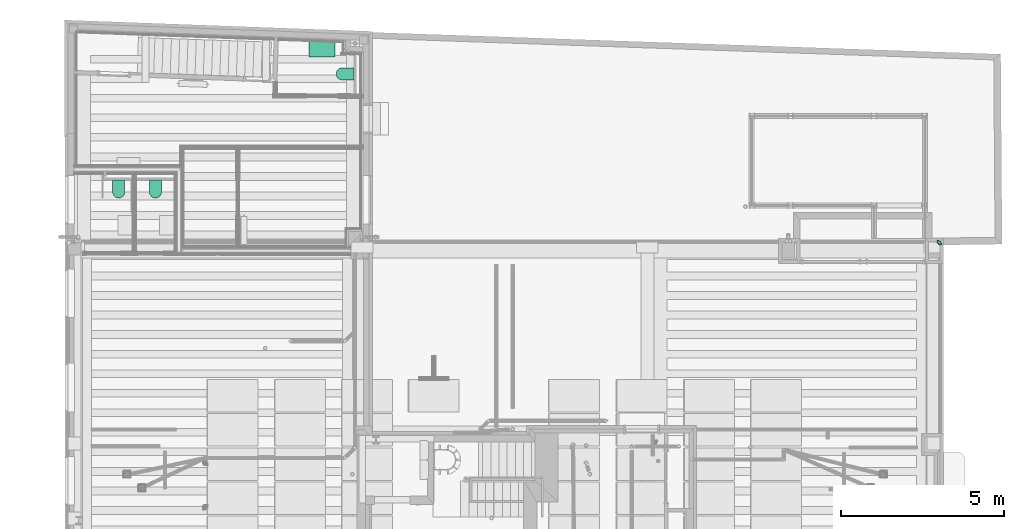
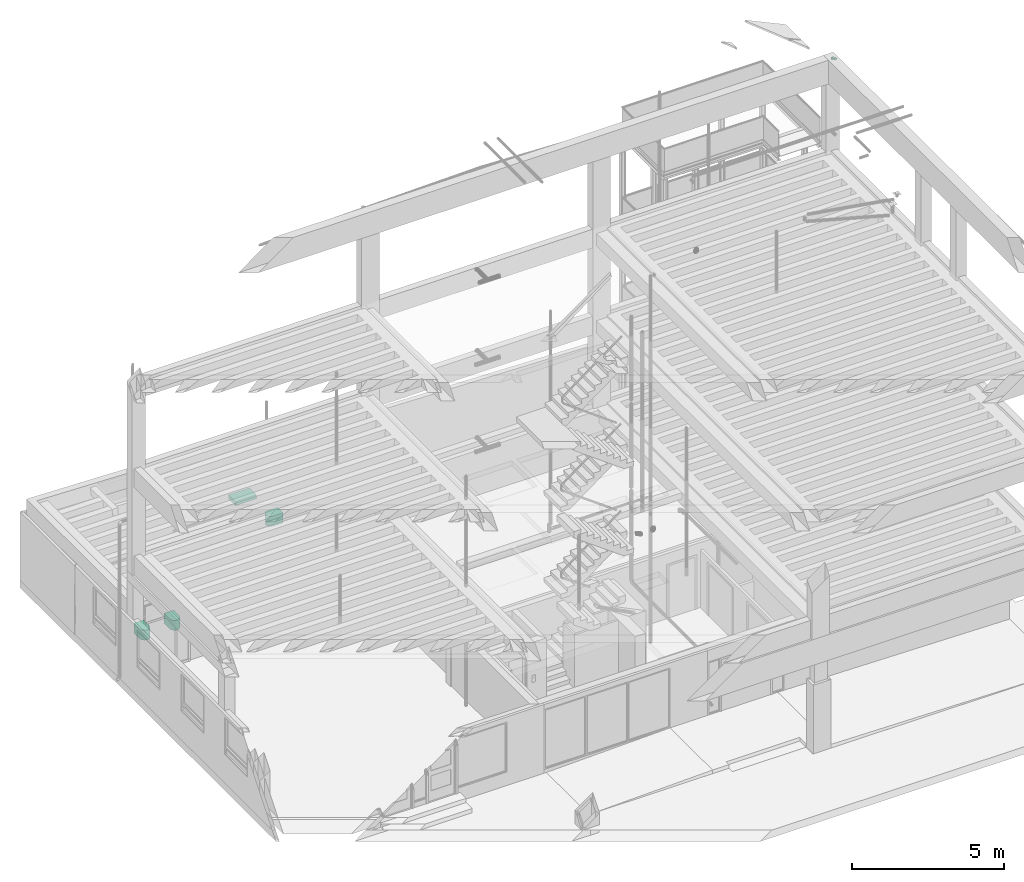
# One storey, part 103 of 108: 4 flow terminals, 1 flow fitting.
"""IFC2X3 building model written with IfcOpenShell, lengths in metres."""

from ifc_helpers import new_model, entity, si_unit, converted_unit, derived_unit, money_unit, direction, frame, origin_with_axes, place, context, subcontext, project, spatial, open_shell, faceted_brep, surface_model, material, type_object, element, save


model = new_model("IFC2X3")

# Units and contexts
model_context = context("Model", 3, precision=1e-05, world=origin_with_axes(), true_north=direction((0.0, 1.0)))
body_context = subcontext(model_context, "Body", "Model", "MODEL_VIEW", scale=1.0)
ifc_project = project(units=[si_unit("LENGTHUNIT", "METRE"), si_unit("AREAUNIT", "SQUARE_METRE"), si_unit("VOLUMEUNIT", "CUBIC_METRE"), si_unit("ABSORBEDDOSEUNIT", "GRAY"), si_unit("AMOUNTOFSUBSTANCEUNIT", "MOLE"), si_unit("DOSEEQUIVALENTUNIT", "SIEVERT"), si_unit("ELECTRICCAPACITANCEUNIT", "FARAD"), si_unit("ELECTRICCHARGEUNIT", "COULOMB"), si_unit("ELECTRICCONDUCTANCEUNIT", "SIEMENS"), si_unit("ELECTRICCURRENTUNIT", "AMPERE"), si_unit("ELECTRICRESISTANCEUNIT", "OHM"), si_unit("ELECTRICVOLTAGEUNIT", "VOLT"), si_unit("ENERGYUNIT", "JOULE"), si_unit("FORCEUNIT", "NEWTON"), si_unit("FREQUENCYUNIT", "HERTZ"), si_unit("ILLUMINANCEUNIT", "LUX"), si_unit("INDUCTANCEUNIT", "HENRY"), si_unit("LUMINOUSFLUXUNIT", "LUMEN"), si_unit("LUMINOUSINTENSITYUNIT", "CANDELA"), si_unit("MAGNETICFLUXDENSITYUNIT", "TESLA"), si_unit("MAGNETICFLUXUNIT", "WEBER"), si_unit("MASSUNIT", "GRAM"), converted_unit("PLANEANGLEUNIT", "degree", entity("IfcReal", 0.0174532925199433), si_unit("PLANEANGLEUNIT", "RADIAN"), dimensions=[0, 0, 0, 0, 0, 0, 0]), si_unit("POWERUNIT", "WATT"), si_unit("PRESSUREUNIT", "PASCAL"), si_unit("RADIOACTIVITYUNIT", "BECQUEREL"), si_unit("SOLIDANGLEUNIT", "STERADIAN"), si_unit("THERMODYNAMICTEMPERATUREUNIT", "KELVIN"), si_unit("TIMEUNIT", "SECOND"), derived_unit("ACCELERATIONUNIT", [(si_unit("LENGTHUNIT", "METRE"), 1), (si_unit("TIMEUNIT", "SECOND"), -2)]), derived_unit("ANGULARVELOCITYUNIT", [(converted_unit("PLANEANGLEUNIT", "degree", entity("IfcReal", 0.0174532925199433), si_unit("PLANEANGLEUNIT", "RADIAN"), dimensions=[0, 0, 0, 0, 0, 0, 0]), 1), (si_unit("TIMEUNIT", "SECOND"), -1)]), derived_unit("CURVATUREUNIT", [(converted_unit("PLANEANGLEUNIT", "degree", entity("IfcReal", 0.0174532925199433), si_unit("PLANEANGLEUNIT", "RADIAN"), dimensions=[0, 0, 0, 0, 0, 0, 0]), 1), (si_unit("LENGTHUNIT", "METRE"), -1)]), derived_unit("DYNAMICVISCOSITYUNIT", [(si_unit("PRESSUREUNIT", "PASCAL"), 1), (si_unit("TIMEUNIT", "SECOND"), 1)]), derived_unit("HEATFLUXDENSITYUNIT", [(si_unit("POWERUNIT", "WATT"), 1), (si_unit("LENGTHUNIT", "METRE"), -2)]), derived_unit("HEATINGVALUEUNIT", [(si_unit("ENERGYUNIT", "JOULE"), 1), (si_unit("MASSUNIT", "GRAM"), -1)]), derived_unit("INTEGERCOUNTRATEUNIT", [(si_unit("TIMEUNIT", "SECOND"), -1)]), derived_unit("IONCONCENTRATIONUNIT", [(si_unit("MASSUNIT", "GRAM"), 1), (si_unit("VOLUMEUNIT", "CUBIC_METRE"), -1)]), derived_unit("ISOTHERMALMOISTURECAPACITYUNIT", [(si_unit("VOLUMEUNIT", "CUBIC_METRE"), 1), (si_unit("MASSUNIT", "GRAM"), -1)]), derived_unit("KINEMATICVISCOSITYUNIT", [(si_unit("AREAUNIT", "SQUARE_METRE"), 1), (si_unit("TIMEUNIT", "SECOND"), -1)]), derived_unit("LINEARFORCEUNIT", [(si_unit("FORCEUNIT", "NEWTON"), 1), (si_unit("LENGTHUNIT", "METRE"), -1)]), derived_unit("LINEARMOMENTUNIT", [(si_unit("FORCEUNIT", "NEWTON"), 1), (si_unit("LENGTHUNIT", "METRE"), -1)]), derived_unit("LINEARSTIFFNESSUNIT", [(si_unit("FORCEUNIT", "NEWTON"), 1), (si_unit("LENGTHUNIT", "METRE"), -1)]), derived_unit("LINEARVELOCITYUNIT", [(si_unit("LENGTHUNIT", "METRE"), 1), (si_unit("TIMEUNIT", "SECOND"), -1)]), derived_unit("LUMINOUSINTENSITYDISTRIBUTIONUNIT", [(si_unit("LUMINOUSINTENSITYUNIT", "CANDELA"), 1), (si_unit("LUMINOUSFLUXUNIT", "LUMEN"), -1)]), derived_unit("MASSDENSITYUNIT", [(si_unit("MASSUNIT", "GRAM"), 1), (si_unit("VOLUMEUNIT", "CUBIC_METRE"), -1)]), derived_unit("MASSFLOWRATEUNIT", [(si_unit("MASSUNIT", "GRAM"), 1), (si_unit("TIMEUNIT", "SECOND"), -1)]), derived_unit("MASSPERLENGTHUNIT", [(si_unit("MASSUNIT", "GRAM"), 1), (si_unit("LENGTHUNIT", "METRE"), -1)]), derived_unit("MODULUSOFELASTICITYUNIT", [(si_unit("FORCEUNIT", "NEWTON"), 1), (si_unit("AREAUNIT", "SQUARE_METRE"), -1)]), derived_unit("MODULUSOFLINEARSUBGRADEREACTIONUNIT", [(si_unit("FORCEUNIT", "NEWTON"), 1), (si_unit("LENGTHUNIT", "METRE"), -2)]), derived_unit("MODULUSOFROTATIONALSUBGRADEREACTIONUNIT", [(si_unit("FORCEUNIT", "NEWTON"), 1), (si_unit("LENGTHUNIT", "METRE"), 1)]), derived_unit("MODULUSOFSUBGRADEREACTIONUNIT", [(si_unit("FORCEUNIT", "NEWTON"), 1), (si_unit("VOLUMEUNIT", "CUBIC_METRE"), -1)]), derived_unit("MOISTUREDIFFUSIVITYUNIT", [(si_unit("VOLUMEUNIT", "CUBIC_METRE"), 1), (si_unit("TIMEUNIT", "SECOND"), -1)]), derived_unit("MOLECULARWEIGHTUNIT", [(si_unit("MASSUNIT", "GRAM"), 1), (si_unit("AMOUNTOFSUBSTANCEUNIT", "MOLE"), -1)]), derived_unit("PLANARFORCEUNIT", [(si_unit("FORCEUNIT", "NEWTON"), 1), (si_unit("LENGTHUNIT", "METRE"), -2)]), derived_unit("ROTATIONALFREQUENCYUNIT", [(si_unit("TIMEUNIT", "SECOND"), -1)]), derived_unit("ROTATIONALMASSUNIT", [(si_unit("MASSUNIT", "GRAM"), 1), (si_unit("LENGTHUNIT", "METRE"), 2)]), derived_unit("ROTATIONALSTIFFNESSUNIT", [(si_unit("FORCEUNIT", "NEWTON"), 1), (si_unit("LENGTHUNIT", "METRE"), 1), (converted_unit("PLANEANGLEUNIT", "degree", entity("IfcReal", 0.0174532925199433), si_unit("PLANEANGLEUNIT", "RADIAN"), dimensions=[0, 0, 0, 0, 0, 0, 0]), -1)]), derived_unit("SECTIONAREAINTEGRALUNIT", [(si_unit("LENGTHUNIT", "METRE"), 5)]), derived_unit("SECTIONMODULUSUNIT", [(si_unit("LENGTHUNIT", "METRE"), 3)]), derived_unit("SHEARMODULUSUNIT", [(si_unit("FORCEUNIT", "NEWTON"), 1), (si_unit("AREAUNIT", "SQUARE_METRE"), -1)]), derived_unit("SOUNDPOWERUNIT", [(si_unit("ENERGYUNIT", "JOULE"), 1), (si_unit("TIMEUNIT", "SECOND"), -1)]), derived_unit("SPECIFICHEATCAPACITYUNIT", [(si_unit("FORCEUNIT", "NEWTON"), 1), (si_unit("MASSUNIT", "GRAM"), -1), (si_unit("THERMODYNAMICTEMPERATUREUNIT", "KELVIN"), -1)]), derived_unit("TEMPERATUREGRADIENTUNIT", [(si_unit("THERMODYNAMICTEMPERATUREUNIT", "KELVIN"), 1), (si_unit("LENGTHUNIT", "METRE"), -1)]), derived_unit("THERMALADMITTANCEUNIT", [(si_unit("POWERUNIT", "WATT"), 1), (si_unit("AREAUNIT", "SQUARE_METRE"), -1), (si_unit("THERMODYNAMICTEMPERATUREUNIT", "KELVIN"), -1)]), derived_unit("THERMALCONDUCTANCEUNIT", [(si_unit("POWERUNIT", "WATT"), 1), (si_unit("LENGTHUNIT", "METRE"), -1), (si_unit("THERMODYNAMICTEMPERATUREUNIT", "KELVIN"), -1)]), derived_unit("THERMALEXPANSIONCOEFFICIENTUNIT", [(si_unit("THERMODYNAMICTEMPERATUREUNIT", "KELVIN"), -1)]), derived_unit("THERMALRESISTANCEUNIT", [(si_unit("AREAUNIT", "SQUARE_METRE"), 1), (si_unit("POWERUNIT", "WATT"), -1)]), derived_unit("THERMALTRANSMITTANCEUNIT", [(si_unit("POWERUNIT", "WATT"), 1), (si_unit("AREAUNIT", "SQUARE_METRE"), -1), (si_unit("THERMODYNAMICTEMPERATUREUNIT", "KELVIN"), -1)]), derived_unit("TORQUEUNIT", [(si_unit("FORCEUNIT", "NEWTON"), 1), (si_unit("LENGTHUNIT", "METRE"), 1)]), derived_unit("VAPORPERMEABILITYUNIT", [(si_unit("MASSUNIT", "GRAM"), 1), (si_unit("TIMEUNIT", "SECOND"), -1)]), derived_unit("VOLUMETRICFLOWRATEUNIT", [(si_unit("VOLUMEUNIT", "CUBIC_METRE"), 1), (si_unit("TIMEUNIT", "SECOND"), -1)]), derived_unit("WARPINGCONSTANTUNIT", [(si_unit("LENGTHUNIT", "METRE"), 6)]), derived_unit("WARPINGMOMENTUNIT", [(si_unit("FORCEUNIT", "NEWTON"), 1), (si_unit("LENGTHUNIT", "METRE"), 2)]), money_unit("GBP")], contexts=[model_context])

# Site, building, storey
site_placement = place(None, origin_with_axes())
site = spatial("IfcSite", under=ifc_project, at=site_placement, Name="Site", CompositionType="ELEMENT")
building_placement = place(site_placement, origin_with_axes())
building = spatial("IfcBuilding", under=site, at=building_placement, Name="Building01", CompositionType="ELEMENT")
storey_placement = place(building_placement, origin_with_axes())
storey = spatial("IfcBuildingStorey", under=building, at=storey_placement, Name="GF", CompositionType="ELEMENT", Elevation=0.0)

# Flow fitting
ifc_material = material(Name="M_BSUK_ColdWater")
pipe_fitting_type = type_object("IfcPipeFittingType", Name="M-BmpElbow-DefaultElbow", PredefinedType="BEND")
flow_fitting_placement = place(storey_placement, frame((26.885, 14.70603, 15.487248), z_axis=(1.0, 0.0, 0.0), x_axis=(0.0, 1.0, 0.0)))
element("IfcFlowFitting", 1, at=flow_fitting_placement, inside=storey, type_object=pipe_fitting_type, material=ifc_material, Name="M-BmpElbow-DefaultElbow", ObjectType="M-BmpElbow-DefaultElbow", context=body_context, shape_type="SurfaceModel", body=[
    surface_model("IfcShellBasedSurfaceModel", [(0.008009, -0.01349, -0.048768), (0.0, -0.01349, -0.048146), (0.0, 0.0, -0.05), (0.007723, 0.0, -0.0506), (0.015826, -0.01349, -0.05062), (0.015261, 0.0, -0.052386), (0.023264, -0.01349, -0.053657), (0.022432, 0.0, -0.055314), (0.030143, -0.01349, -0.057807), (0.029065, 0.0, -0.059315), (0.036298, -0.01349, -0.062969), (0.035, 0.0, -0.064293), (0.041582, -0.01349, -0.06902), (0.040095, 0.0, -0.070127), (0.045868, -0.01349, -0.075814), (0.044228, 0.0, -0.076679), (0.049054, -0.01349, -0.083189), (0.0473, 0.0, -0.08379), (0.051061, -0.01349, -0.090968), (0.049236, 0.0, -0.091291), (0.051844, -0.01349, -0.098963), (0.04999, 0.0, -0.099), (0.008847, -0.025979, -0.043408), (0.0, -0.025979, -0.042721), (0.017482, -0.025979, -0.045454), (0.025697, -0.025979, -0.048809), (0.033296, -0.025979, -0.053392), (0.040095, -0.025979, -0.059095), (0.045932, -0.025979, -0.065779), (0.050667, -0.025979, -0.073284), (0.054185, -0.025979, -0.081431), (0.056403, -0.025979, -0.090023), (0.057268, -0.025979, -0.098855), (0.010175, -0.036542, -0.034918), (0.0, -0.036542, -0.034128), (0.020105, -0.036542, -0.037271), (0.029553, -0.036542, -0.041129), (0.038291, -0.036542, -0.0464), (0.046111, -0.036542, -0.052958), (0.052823, -0.036542, -0.060645), (0.058268, -0.036542, -0.069276), (0.062315, -0.036542, -0.078645), (0.064865, -0.036542, -0.088526), (0.065859, -0.036542, -0.098683), (0.011893, -0.044394, -0.023927), (0.0, -0.044394, -0.023003), (0.0235, -0.044394, -0.026677), (0.034544, -0.044394, -0.031187), (0.044758, -0.044394, -0.037348), (0.053898, -0.044394, -0.045013), (0.061744, -0.044394, -0.053998), (0.068109, -0.044394, -0.064087), (0.072838, -0.044394, -0.075038), (0.07582, -0.044394, -0.086588), (0.076981, -0.044394, -0.09846), (0.013875, -0.048954, -0.011251), (0.0, -0.048954, -0.010173), (0.027416, -0.048954, -0.014459), (0.0403, -0.048954, -0.01972), (0.052216, -0.048954, -0.026908), (0.062879, -0.048954, -0.035851), (0.072033, -0.048954, -0.046333), (0.079458, -0.048954, -0.058103), (0.084976, -0.048954, -0.070879), (0.088454, -0.048954, -0.084353), (0.089809, -0.048954, -0.098204), (0.015973, -0.049883, 0.002171), (0.0, -0.049883, 0.003412), (0.031562, -0.049883, -0.001522), (0.046394, -0.049883, -0.007579), (0.060113, -0.049883, -0.015854), (0.072389, -0.049883, -0.026149), (0.082927, -0.049883, -0.038216), (0.091475, -0.049883, -0.051767), (0.097827, -0.049883, -0.066475), (0.101831, -0.049883, -0.081987), (0.103391, -0.049883, -0.097932), (0.018032, -0.047113, 0.015343), (0.0, -0.047113, 0.016744), (0.035632, -0.047113, 0.011174), (0.052376, -0.047113, 0.004336), (0.067863, -0.047113, -0.005006), (0.081721, -0.047113, -0.016628), (0.093618, -0.047113, -0.030251), (0.103268, -0.047113, -0.045548), (0.110439, -0.047113, -0.062153), (0.114959, -0.047113, -0.079665), (0.116721, -0.047113, -0.097665), (0.0199, -0.040848, 0.027288), (0.0, -0.040848, 0.028834), (0.039322, -0.040848, 0.022687), (0.0578, -0.040848, 0.015141), (0.074891, -0.040848, 0.004831), (0.090184, -0.040848, -0.007994), (0.103313, -0.040848, -0.023028), (0.113962, -0.040848, -0.039909), (0.121876, -0.040848, -0.058233), (0.126865, -0.040848, -0.077559), (0.128808, -0.040848, -0.097424), (0.021437, -0.031554, 0.03712), (0.0, -0.031554, 0.038786), (0.042359, -0.031554, 0.032163), (0.062264, -0.031554, 0.024035), (0.080675, -0.031554, 0.012929), (0.09715, -0.031554, -0.000887), (0.111293, -0.031554, -0.017083), (0.122765, -0.031554, -0.035268), (0.13129, -0.031554, -0.055007), (0.136664, -0.031554, -0.075826), (0.138758, -0.031554, -0.097225), (0.022529, -0.01992, 0.04411), (0.0, -0.01992, 0.045861), (0.044518, -0.01992, 0.038901), (0.065438, -0.01992, 0.030358), (0.084788, -0.01992, 0.018686), (0.102103, -0.01992, 0.004165), (0.116966, -0.01992, -0.012856), (0.129023, -0.01992, -0.031968), (0.137983, -0.01992, -0.052713), (0.143631, -0.01992, -0.074593), (0.145831, -0.01992, -0.097083), (0.023097, -0.006808, 0.04774), (0.0, -0.006808, 0.049534), (0.045639, -0.006808, 0.042399), (0.067087, -0.006808, 0.033641), (0.086924, -0.006808, 0.021675), (0.104674, -0.006808, 0.006789), (0.119912, -0.006808, -0.010661), (0.132273, -0.006808, -0.030254), (0.141458, -0.006808, -0.051522), (0.147248, -0.006808, -0.073953), (0.149504, -0.006808, -0.09701), (0.023097, 0.006808, 0.04774), (0.0, 0.006808, 0.049534), (0.045639, 0.006808, 0.042399), (0.067087, 0.006808, 0.033641), (0.086924, 0.006808, 0.021675), (0.104674, 0.006808, 0.006789), (0.119912, 0.006808, -0.010661), (0.132273, 0.006808, -0.030254), (0.141458, 0.006808, -0.051522), (0.147248, 0.006808, -0.073953), (0.149504, 0.006808, -0.09701), (0.022529, 0.01992, 0.04411), (0.0, 0.01992, 0.045861), (0.044518, 0.01992, 0.038901), (0.065438, 0.01992, 0.030358), (0.084788, 0.01992, 0.018686), (0.102103, 0.01992, 0.004165), (0.116966, 0.01992, -0.012856), (0.129023, 0.01992, -0.031968), (0.137983, 0.01992, -0.052713), (0.143631, 0.01992, -0.074593), (0.145831, 0.01992, -0.097083), (0.021437, 0.031554, 0.03712), (0.0, 0.031554, 0.038786), (0.042359, 0.031554, 0.032163), (0.062264, 0.031554, 0.024035), (0.080675, 0.031554, 0.012929), (0.09715, 0.031554, -0.000887), (0.111293, 0.031554, -0.017083), (0.122765, 0.031554, -0.035268), (0.13129, 0.031554, -0.055007), (0.136664, 0.031554, -0.075826), (0.138758, 0.031554, -0.097225), (0.0199, 0.040848, 0.027288), (0.0, 0.040848, 0.028834), (0.039322, 0.040848, 0.022687), (0.0578, 0.040848, 0.015141), (0.074891, 0.040848, 0.004831), (0.090184, 0.040848, -0.007994), (0.103313, 0.040848, -0.023028), (0.113962, 0.040848, -0.039909), (0.121876, 0.040848, -0.058233), (0.126865, 0.040848, -0.077559), (0.128808, 0.040848, -0.097424), (0.018032, 0.047113, 0.015343), (0.0, 0.047113, 0.016744), (0.035632, 0.047113, 0.011174), (0.052376, 0.047113, 0.004336), (0.067863, 0.047113, -0.005006), (0.081721, 0.047113, -0.016628), (0.093618, 0.047113, -0.030251), (0.103268, 0.047113, -0.045548), (0.110439, 0.047113, -0.062153), (0.114959, 0.047113, -0.079665), (0.116721, 0.047113, -0.097665), (0.015973, 0.049883, 0.002171), (0.0, 0.049883, 0.003412), (0.031562, 0.049883, -0.001522), (0.046394, 0.049883, -0.007579), (0.060113, 0.049883, -0.015854), (0.072389, 0.049883, -0.026149), (0.082927, 0.049883, -0.038216), (0.091475, 0.049883, -0.051767), (0.097827, 0.049883, -0.066475), (0.101831, 0.049883, -0.081987), (0.103391, 0.049883, -0.097932), (0.013875, 0.048954, -0.011251), (0.0, 0.048954, -0.010173), (0.027416, 0.048954, -0.014459), (0.0403, 0.048954, -0.01972), (0.052216, 0.048954, -0.026908), (0.062879, 0.048954, -0.035851), (0.072033, 0.048954, -0.046333), (0.079458, 0.048954, -0.058103), (0.084976, 0.048954, -0.070879), (0.088454, 0.048954, -0.084353), (0.089809, 0.048954, -0.098204), (0.011893, 0.044394, -0.023927), (0.0, 0.044394, -0.023003), (0.0235, 0.044394, -0.026677), (0.034544, 0.044394, -0.031187), (0.044758, 0.044394, -0.037348), (0.053898, 0.044394, -0.045013), (0.061744, 0.044394, -0.053998), (0.068109, 0.044394, -0.064087), (0.072838, 0.044394, -0.075038), (0.07582, 0.044394, -0.086588), (0.076981, 0.044394, -0.09846), (0.010175, 0.036542, -0.034918), (0.0, 0.036542, -0.034128), (0.020105, 0.036542, -0.037271), (0.029553, 0.036542, -0.041129), (0.038291, 0.036542, -0.0464), (0.046111, 0.036542, -0.052958), (0.052823, 0.036542, -0.060645), (0.058268, 0.036542, -0.069276), (0.062315, 0.036542, -0.078645), (0.064865, 0.036542, -0.088526), (0.065859, 0.036542, -0.098683), (0.008847, 0.025979, -0.043408), (0.0, 0.025979, -0.042721), (0.017482, 0.025979, -0.045454), (0.025697, 0.025979, -0.048809), (0.033296, 0.025979, -0.053392), (0.040095, 0.025979, -0.059095), (0.045932, 0.025979, -0.065779), (0.050667, 0.025979, -0.073284), (0.054185, 0.025979, -0.081431), (0.056403, 0.025979, -0.090023), (0.057268, 0.025979, -0.098855), (0.008009, 0.01349, -0.048768), (0.0, 0.01349, -0.048146), (0.015826, 0.01349, -0.05062), (0.023264, 0.01349, -0.053657), (0.030143, 0.01349, -0.057807), (0.036298, 0.01349, -0.062969), (0.041582, 0.01349, -0.06902), (0.045868, 0.01349, -0.075814), (0.049054, 0.01349, -0.083189), (0.051061, 0.01349, -0.090968), (0.051844, 0.01349, -0.098963)], [open_shell([[[0, 1, 2, 3]], [[4, 0, 3, 5]], [[6, 4, 5, 7]], [[8, 6, 7, 9]], [[10, 8, 9, 11]], [[12, 10, 11, 13]], [[14, 12, 13, 15]], [[16, 14, 15, 17]], [[18, 16, 17, 19]], [[20, 18, 19, 21]], [[22, 23, 1, 0]], [[24, 22, 0, 4]], [[25, 24, 4, 6]], [[26, 25, 6, 8]], [[27, 26, 8, 10]], [[28, 27, 10, 12]], [[29, 28, 12, 14]], [[30, 29, 14, 16]], [[31, 30, 16, 18]], [[32, 31, 18, 20]], [[33, 34, 23, 22]], [[35, 33, 22, 24]], [[36, 35, 24, 25]], [[37, 36, 25, 26]], [[38, 37, 26, 27]], [[39, 38, 27, 28]], [[40, 39, 28, 29]], [[41, 40, 29, 30]], [[42, 41, 30, 31]], [[43, 42, 31, 32]], [[44, 45, 34, 33]], [[46, 44, 33, 35]], [[47, 46, 35, 36]], [[48, 47, 36, 37]], [[49, 48, 37, 38]], [[50, 49, 38, 39]], [[51, 50, 39, 40]], [[52, 51, 40, 41]], [[53, 52, 41, 42]], [[54, 53, 42, 43]], [[55, 56, 45, 44]], [[57, 55, 44, 46]], [[58, 57, 46, 47]], [[59, 58, 47, 48]], [[60, 59, 48, 49]], [[61, 60, 49, 50]], [[62, 61, 50, 51]], [[63, 62, 51, 52]], [[64, 63, 52, 53]], [[65, 64, 53, 54]], [[66, 67, 56, 55]], [[68, 66, 55, 57]], [[69, 68, 57, 58]], [[70, 69, 58, 59]], [[71, 70, 59, 60]], [[72, 71, 60, 61]], [[73, 72, 61, 62]], [[74, 73, 62, 63]], [[75, 74, 63, 64]], [[76, 75, 64, 65]], [[77, 78, 67, 66]], [[79, 77, 66, 68]], [[80, 79, 68, 69]], [[81, 80, 69, 70]], [[82, 81, 70, 71]], [[83, 82, 71, 72]], [[84, 83, 72, 73]], [[85, 84, 73, 74]], [[86, 85, 74, 75]], [[87, 86, 75, 76]], [[88, 89, 78, 77]], [[90, 88, 77, 79]], [[91, 90, 79, 80]], [[92, 91, 80, 81]], [[93, 92, 81, 82]], [[94, 93, 82, 83]], [[95, 94, 83, 84]], [[96, 95, 84, 85]], [[97, 96, 85, 86]], [[98, 97, 86, 87]], [[99, 100, 89, 88]], [[101, 99, 88, 90]], [[102, 101, 90, 91]], [[103, 102, 91, 92]], [[104, 103, 92, 93]], [[105, 104, 93, 94]], [[106, 105, 94, 95]], [[107, 106, 95, 96]], [[108, 107, 96, 97]], [[109, 108, 97, 98]], [[110, 111, 100, 99]], [[112, 110, 99, 101]], [[113, 112, 101, 102]], [[114, 113, 102, 103]], [[115, 114, 103, 104]], [[116, 115, 104, 105]], [[117, 116, 105, 106]], [[118, 117, 106, 107]], [[119, 118, 107, 108]], [[120, 119, 108, 109]], [[121, 122, 111, 110]], [[123, 121, 110, 112]], [[124, 123, 112, 113]], [[125, 124, 113, 114]], [[126, 125, 114, 115]], [[127, 126, 115, 116]], [[128, 127, 116, 117]], [[129, 128, 117, 118]], [[130, 129, 118, 119]], [[131, 130, 119, 120]], [[132, 133, 122, 121]], [[134, 132, 121, 123]], [[135, 134, 123, 124]], [[136, 135, 124, 125]], [[137, 136, 125, 126]], [[138, 137, 126, 127]], [[139, 138, 127, 128]], [[140, 139, 128, 129]], [[141, 140, 129, 130]], [[142, 141, 130, 131]], [[143, 144, 133, 132]], [[145, 143, 132, 134]], [[146, 145, 134, 135]], [[147, 146, 135, 136]], [[148, 147, 136, 137]], [[149, 148, 137, 138]], [[150, 149, 138, 139]], [[151, 150, 139, 140]], [[152, 151, 140, 141]], [[153, 152, 141, 142]], [[154, 155, 144, 143]], [[156, 154, 143, 145]], [[157, 156, 145, 146]], [[158, 157, 146, 147]], [[159, 158, 147, 148]], [[160, 159, 148, 149]], [[161, 160, 149, 150]], [[162, 161, 150, 151]], [[163, 162, 151, 152]], [[164, 163, 152, 153]], [[165, 166, 155, 154]], [[167, 165, 154, 156]], [[168, 167, 156, 157]], [[169, 168, 157, 158]], [[170, 169, 158, 159]], [[171, 170, 159, 160]], [[172, 171, 160, 161]], [[173, 172, 161, 162]], [[174, 173, 162, 163]], [[175, 174, 163, 164]], [[176, 177, 166, 165]], [[178, 176, 165, 167]], [[179, 178, 167, 168]], [[180, 179, 168, 169]], [[181, 180, 169, 170]], [[182, 181, 170, 171]], [[183, 182, 171, 172]], [[184, 183, 172, 173]], [[185, 184, 173, 174]], [[186, 185, 174, 175]], [[187, 188, 177, 176]], [[189, 187, 176, 178]], [[190, 189, 178, 179]], [[191, 190, 179, 180]], [[192, 191, 180, 181]], [[193, 192, 181, 182]], [[194, 193, 182, 183]], [[195, 194, 183, 184]], [[196, 195, 184, 185]], [[197, 196, 185, 186]], [[198, 199, 188, 187]], [[200, 198, 187, 189]], [[201, 200, 189, 190]], [[202, 201, 190, 191]], [[203, 202, 191, 192]], [[204, 203, 192, 193]], [[205, 204, 193, 194]], [[206, 205, 194, 195]], [[207, 206, 195, 196]], [[208, 207, 196, 197]], [[209, 210, 199, 198]], [[211, 209, 198, 200]], [[212, 211, 200, 201]], [[213, 212, 201, 202]], [[214, 213, 202, 203]], [[215, 214, 203, 204]], [[216, 215, 204, 205]], [[217, 216, 205, 206]], [[218, 217, 206, 207]], [[219, 218, 207, 208]], [[220, 221, 210, 209]], [[222, 220, 209, 211]], [[223, 222, 211, 212]], [[224, 223, 212, 213]], [[225, 224, 213, 214]], [[226, 225, 214, 215]], [[227, 226, 215, 216]], [[228, 227, 216, 217]], [[229, 228, 217, 218]], [[230, 229, 218, 219]], [[231, 232, 221, 220]], [[233, 231, 220, 222]], [[234, 233, 222, 223]], [[235, 234, 223, 224]], [[236, 235, 224, 225]], [[237, 236, 225, 226]], [[238, 237, 226, 227]], [[239, 238, 227, 228]], [[240, 239, 228, 229]], [[241, 240, 229, 230]], [[242, 243, 232, 231]], [[244, 242, 231, 233]], [[245, 244, 233, 234]], [[246, 245, 234, 235]], [[247, 246, 235, 236]], [[248, 247, 236, 237]], [[249, 248, 237, 238]], [[250, 249, 238, 239]], [[251, 250, 239, 240]], [[252, 251, 240, 241]], [[3, 2, 243, 242]], [[5, 3, 242, 244]], [[7, 5, 244, 245]], [[9, 7, 245, 246]], [[11, 9, 246, 247]], [[13, 11, 247, 248]], [[15, 13, 248, 249]], [[17, 15, 249, 250]], [[19, 17, 250, 251]], [[21, 19, 251, 252]]])]),
])

# Space
space_1_placement = place(storey_placement, frame((8.552822, 20.936203, 0.217025), z_axis=(0.0, 0.0, 1.0), x_axis=(-0.99931258, 0.03707243, 0.0)))
space_1 = spatial("IfcSpace", under=storey, at=space_1_placement, Name="01", CompositionType="ELEMENT", InteriorOrExteriorSpace="NOTDEFINED")

# Flow terminal
sanitary_terminal_type_1 = type_object("IfcSanitaryTerminalType", Name="SHE_A-Sink_47x80", PredefinedType="NOTDEFINED")
flow_terminal_1_placement = place(storey_placement, frame((7.889991, 20.710851, 0.972999), z_axis=(0.0, 0.0, 1.0), x_axis=(0.0, -1.0, 0.0)))
element("IfcFlowTerminal", 2, at=flow_terminal_1_placement, inside=space_1, type_object=sanitary_terminal_type_1, Name="01", ObjectType="SHE_A-Sink_47x80", context=body_context, shape_type="Brep", body=[
    faceted_brep([(-0.235, 0.4, -0.075), (-0.235, 0.4, 0.075), (0.235, 0.4, 0.075), (0.235, 0.4, -0.075), (0.235, -0.4, 0.075), (0.235, -0.4, -0.075), (-0.235, -0.4, 0.075), (-0.235, -0.4, -0.075)], [[[0, 1, 2, 3]], [[3, 2, 4, 5]], [[5, 4, 6, 7]], [[7, 6, 1, 0]], [[1, 6, 4, 2]], [[3, 5, 7, 0]]]),
])

# Space
space_2_placement = place(storey_placement, frame((3.380525, 16.69365, 0.216987), z_axis=(0.0, 0.0, 1.0), x_axis=(-1.0, 0.0, 0.0)))
space_2 = spatial("IfcSpace", under=storey, at=space_2_placement, Name="0", CompositionType="ELEMENT", InteriorOrExteriorSpace="NOTDEFINED")

# Flow terminals
sanitary_terminal_type_2 = type_object("IfcSanitaryTerminalType", Name="SHE_A-Toilet_base", PredefinedType="NOTDEFINED")
for number, where, z_axis, x_axis, name in (
    (3, (2.780534, 16.418587, 0.398), (0.0, 0.0, 1.0), (0.0, 1.0, 0.0), "00"),
    (4, (1.650525, 16.418587, 0.398), (0.0, 0.0, 1.0), (0.0, 1.0, 0.0), "00"),
):
    element("IfcFlowTerminal", number, at=place(storey_placement, frame(where, z_axis=z_axis, x_axis=x_axis)), inside=space_2, type_object=sanitary_terminal_type_2, Name=name, ObjectType="SHE_A-Toilet_base", context=body_context, shape_type="Brep", body=[
        faceted_brep([(0.275003, 0.185008, -0.2), (0.275003, -0.185009, -0.2), (-0.089995, -0.185009, -0.2), (-0.126088, -0.181454, -0.2), (-0.160795, -0.170926, -0.2), (-0.19278, -0.153829, -0.2), (-0.220816, -0.130821, -0.2), (-0.243824, -0.102785, -0.2), (-0.26092, -0.0708, -0.2), (-0.271448, -0.036093, -0.2), (-0.275003, 0.0, -0.2), (-0.271448, 0.036093, -0.2), (-0.26092, 0.0708, -0.2), (-0.243824, 0.102785, -0.2), (-0.220816, 0.130821, -0.2), (-0.19278, 0.153829, -0.2), (-0.160795, 0.170926, -0.2), (-0.126088, 0.181454, -0.2), (-0.089995, 0.185008, -0.2), (-0.089995, 0.185008, 0.2), (-0.126088, 0.181454, 0.2), (-0.160795, 0.170926, 0.2), (-0.19278, 0.153829, 0.2), (-0.220816, 0.130821, 0.2), (-0.243824, 0.102785, 0.2), (-0.26092, 0.0708, 0.2), (-0.271448, 0.036093, 0.2), (-0.275003, 0.0, 0.2), (-0.271448, -0.036093, 0.2), (-0.26092, -0.0708, 0.2), (-0.243824, -0.102785, 0.2), (-0.220816, -0.130821, 0.2), (-0.19278, -0.153829, 0.2), (-0.160795, -0.170926, 0.2), (-0.126088, -0.181454, 0.2), (-0.089995, -0.185009, 0.2), (0.275003, -0.185009, 0.2), (0.275003, 0.185008, 0.2)], [[[0, 1, 2, 3, 4, 5, 6, 7, 8, 9, 10, 11, 12, 13, 14, 15, 16, 17, 18]], [[19, 20, 21, 22, 23, 24, 25, 26, 27, 28, 29, 30, 31, 32, 33, 34, 35, 36, 37]], [[2, 35, 34, 3]], [[3, 34, 33, 4]], [[4, 33, 32, 5]], [[5, 32, 31, 6]], [[6, 31, 30, 7]], [[7, 30, 29, 8]], [[8, 29, 28, 9]], [[9, 28, 27, 10]], [[10, 27, 26, 11]], [[11, 26, 25, 12]], [[12, 25, 24, 13]], [[13, 24, 23, 14]], [[14, 23, 22, 15]], [[15, 22, 21, 16]], [[16, 21, 20, 17]], [[17, 20, 19, 18]], [[1, 36, 35, 2]], [[0, 37, 36, 1]], [[18, 19, 37, 0]]]),
    ])
flow_terminal_2_placement = place(storey_placement, frame((8.607262, 19.957574, 0.348), z_axis=(0.0, 0.0, 1.0), x_axis=(1.0, 0.0, 0.0)))
element("IfcFlowTerminal", 5, at=flow_terminal_2_placement, inside=space_1, type_object=sanitary_terminal_type_2, Name="01", ObjectType="SHE_A-Toilet_base", context=body_context, shape_type="Brep", body=[
    faceted_brep([(0.275003, 0.185008, -0.2), (0.275003, -0.185009, -0.2), (-0.089995, -0.185009, -0.2), (-0.126088, -0.181454, -0.2), (-0.160795, -0.170926, -0.2), (-0.19278, -0.153829, -0.2), (-0.220816, -0.130821, -0.2), (-0.243824, -0.102785, -0.2), (-0.26092, -0.0708, -0.2), (-0.271448, -0.036093, -0.2), (-0.275003, 0.0, -0.2), (-0.271448, 0.036093, -0.2), (-0.26092, 0.0708, -0.2), (-0.243824, 0.102785, -0.2), (-0.220816, 0.130821, -0.2), (-0.19278, 0.153829, -0.2), (-0.160795, 0.170926, -0.2), (-0.126088, 0.181454, -0.2), (-0.089995, 0.185008, -0.2), (-0.089995, 0.185008, 0.2), (-0.126088, 0.181454, 0.2), (-0.160795, 0.170926, 0.2), (-0.19278, 0.153829, 0.2), (-0.220816, 0.130821, 0.2), (-0.243824, 0.102785, 0.2), (-0.26092, 0.0708, 0.2), (-0.271448, 0.036093, 0.2), (-0.275003, 0.0, 0.2), (-0.271448, -0.036093, 0.2), (-0.26092, -0.0708, 0.2), (-0.243824, -0.102785, 0.2), (-0.220816, -0.130821, 0.2), (-0.19278, -0.153829, 0.2), (-0.160795, -0.170926, 0.2), (-0.126088, -0.181454, 0.2), (-0.089995, -0.185009, 0.2), (0.275003, -0.185009, 0.2), (0.275003, 0.185008, 0.2)], [[[0, 1, 2, 3, 4, 5, 6, 7, 8, 9, 10, 11, 12, 13, 14, 15, 16, 17, 18]], [[19, 20, 21, 22, 23, 24, 25, 26, 27, 28, 29, 30, 31, 32, 33, 34, 35, 36, 37]], [[2, 35, 34, 3]], [[3, 34, 33, 4]], [[4, 33, 32, 5]], [[5, 32, 31, 6]], [[6, 31, 30, 7]], [[7, 30, 29, 8]], [[8, 29, 28, 9]], [[9, 28, 27, 10]], [[10, 27, 26, 11]], [[11, 26, 25, 12]], [[12, 25, 24, 13]], [[13, 24, 23, 14]], [[14, 23, 22, 15]], [[15, 22, 21, 16]], [[16, 21, 20, 17]], [[17, 20, 19, 18]], [[1, 36, 35, 2]], [[0, 37, 36, 1]], [[18, 19, 37, 0]]]),
])

save(model, "model.ifc")
